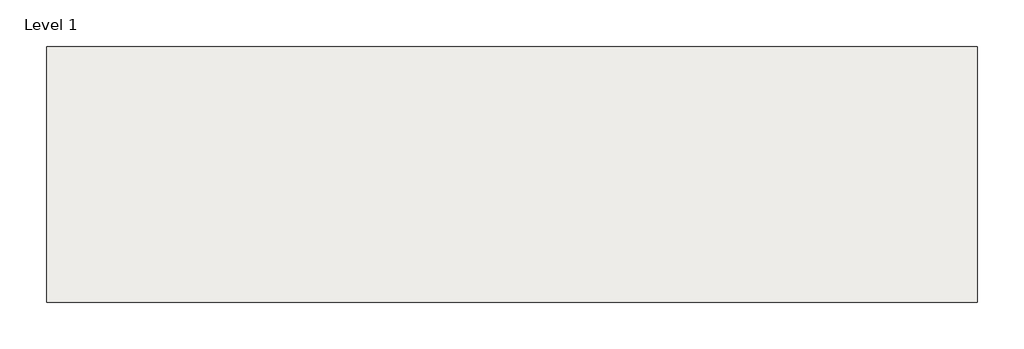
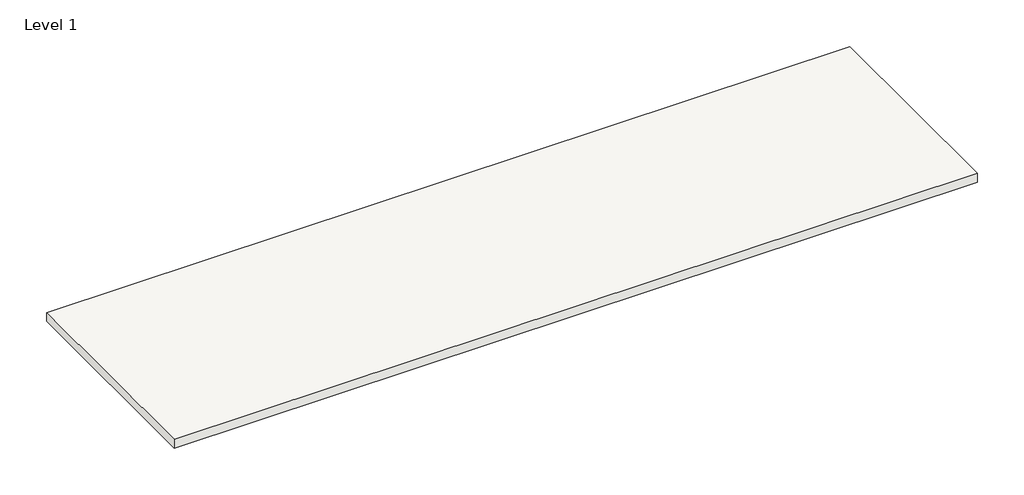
# One storey, incomplete: 1 slab.
"""IFC4 building model written with IfcOpenShell, lengths in millimetres."""

from ifc_helpers import new_model, si_unit, frame, origin, place, context, project, spatial, polyline, outline, extrude, element, save

model = new_model("IFC4")

# Units and contexts
model_context = context("Model", 3, world=origin())
ifc_project = project(units=[si_unit("LENGTHUNIT", "METRE", prefix="MILLI")], contexts=[model_context])

# Site, building, storey
site = spatial("IfcSite", under=ifc_project)
building = spatial("IfcBuilding", under=site)
storey = spatial("IfcBuildingStorey", under=building, Name="Level 1", Elevation=0.0)

# Slab
placement = place(None, origin())
element("IfcSlab", 1, ObjectType="Generic - 12\"", at=placement, inside=storey, context=model_context, shape_type="SweptSolid", body=[
    extrude(outline(polyline([(7351.5757994, 19137.2598675), (7351.5757994, 11937.2598675), (-18848.4242006, 11937.2598675), (-18848.4242006, 19137.2598675), (7351.5757994, 19137.2598675)])), frame((0.0, 0.0, -304.8), z_axis=(0.0, 0.0, 1.0), x_axis=(1.0, 0.0, 0.0)), (0.0, 0.0, 1.0), 304.8),
])

save(model, "model.ifc")
